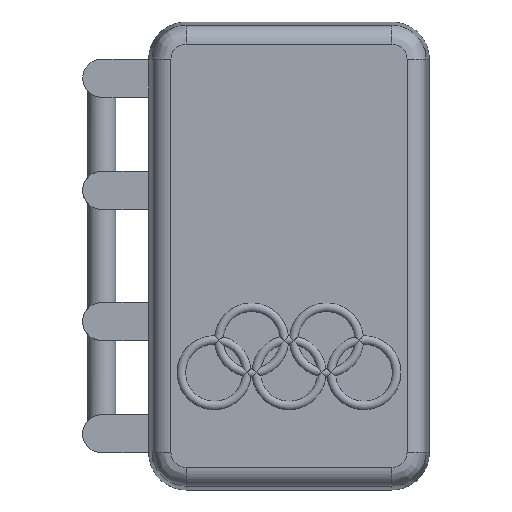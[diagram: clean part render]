
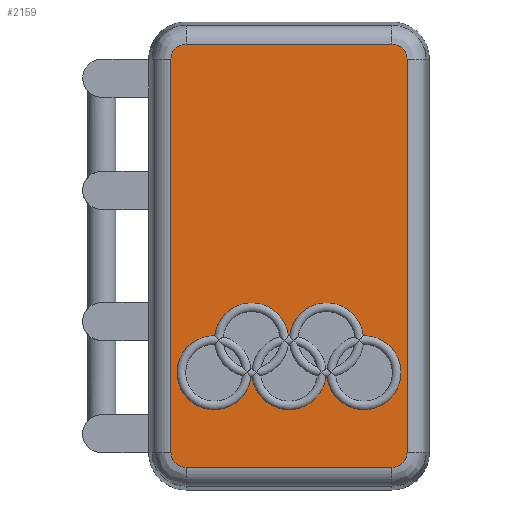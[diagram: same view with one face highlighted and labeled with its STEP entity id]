
A CAD part, top view. The second image highlights one B-rep face of the part: STEP entity #2159.
In plain terms, the highlighted planar face has unit normal (0, 0, 1).
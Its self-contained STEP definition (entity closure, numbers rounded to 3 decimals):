
#141=FACE_BOUND('',#274,.T.);
#143=FACE_OUTER_BOUND('',#273,.T.);
#273=EDGE_LOOP('',(#1339,#1340,#1341,#1342,#1343,#1344,#1345,#1346));
#274=EDGE_LOOP('',(#1347,#1348,#1349,#1350,#1351,#1352,#1353,#1354));
#405=CIRCLE('',#2310,1.615);
#406=CIRCLE('',#2311,1.615);
#407=CIRCLE('',#2312,1.615);
#408=CIRCLE('',#2313,1.615);
#409=CIRCLE('',#2314,3.958);
#410=CIRCLE('',#2315,3.958);
#411=CIRCLE('',#2316,3.958);
#412=CIRCLE('',#2317,3.958);
#413=CIRCLE('',#2318,3.958);
#414=CIRCLE('',#2319,3.958);
#415=CIRCLE('',#2320,3.958);
#416=CIRCLE('',#2321,3.958);
#513=LINE('',#3212,#666);
#514=LINE('',#3216,#667);
#515=LINE('',#3220,#668);
#516=LINE('',#3224,#669);
#666=VECTOR('',#2561,1.);
#667=VECTOR('',#2564,1.);
#668=VECTOR('',#2567,1.);
#669=VECTOR('',#2570,1.);
#819=VERTEX_POINT('',#3210);
#820=VERTEX_POINT('',#3211);
#821=VERTEX_POINT('',#3213);
#822=VERTEX_POINT('',#3215);
#823=VERTEX_POINT('',#3217);
#824=VERTEX_POINT('',#3219);
#825=VERTEX_POINT('',#3221);
#826=VERTEX_POINT('',#3223);
#827=VERTEX_POINT('',#3226);
#828=VERTEX_POINT('',#3227);
#829=VERTEX_POINT('',#3229);
#830=VERTEX_POINT('',#3231);
#831=VERTEX_POINT('',#3233);
#832=VERTEX_POINT('',#3235);
#833=VERTEX_POINT('',#3237);
#834=VERTEX_POINT('',#3239);
#1016=EDGE_CURVE('',#819,#820,#513,.T.);
#1017=EDGE_CURVE('',#820,#821,#405,.T.);
#1018=EDGE_CURVE('',#821,#822,#514,.T.);
#1019=EDGE_CURVE('',#822,#823,#406,.T.);
#1020=EDGE_CURVE('',#823,#824,#515,.T.);
#1021=EDGE_CURVE('',#824,#825,#407,.T.);
#1022=EDGE_CURVE('',#825,#826,#516,.T.);
#1023=EDGE_CURVE('',#826,#819,#408,.T.);
#1024=EDGE_CURVE('',#827,#828,#409,.T.);
#1025=EDGE_CURVE('',#828,#829,#410,.T.);
#1026=EDGE_CURVE('',#829,#830,#411,.T.);
#1027=EDGE_CURVE('',#830,#831,#412,.T.);
#1028=EDGE_CURVE('',#831,#832,#413,.T.);
#1029=EDGE_CURVE('',#832,#833,#414,.T.);
#1030=EDGE_CURVE('',#833,#834,#415,.T.);
#1031=EDGE_CURVE('',#834,#827,#416,.T.);
#1339=ORIENTED_EDGE('',*,*,#1016,.T.);
#1340=ORIENTED_EDGE('',*,*,#1017,.T.);
#1341=ORIENTED_EDGE('',*,*,#1018,.T.);
#1342=ORIENTED_EDGE('',*,*,#1019,.T.);
#1343=ORIENTED_EDGE('',*,*,#1020,.T.);
#1344=ORIENTED_EDGE('',*,*,#1021,.T.);
#1345=ORIENTED_EDGE('',*,*,#1022,.T.);
#1346=ORIENTED_EDGE('',*,*,#1023,.T.);
#1347=ORIENTED_EDGE('',*,*,#1024,.T.);
#1348=ORIENTED_EDGE('',*,*,#1025,.T.);
#1349=ORIENTED_EDGE('',*,*,#1026,.T.);
#1350=ORIENTED_EDGE('',*,*,#1027,.T.);
#1351=ORIENTED_EDGE('',*,*,#1028,.T.);
#1352=ORIENTED_EDGE('',*,*,#1029,.T.);
#1353=ORIENTED_EDGE('',*,*,#1030,.T.);
#1354=ORIENTED_EDGE('',*,*,#1031,.T.);
#1985=PLANE('',#2309);
#2159=ADVANCED_FACE('',(#143,#141),#1985,.T.);
#2309=AXIS2_PLACEMENT_3D('',#3209,#2559,#2560);
#2310=AXIS2_PLACEMENT_3D('',#3214,#2562,#2563);
#2311=AXIS2_PLACEMENT_3D('',#3218,#2565,#2566);
#2312=AXIS2_PLACEMENT_3D('',#3222,#2568,#2569);
#2313=AXIS2_PLACEMENT_3D('',#3225,#2571,#2572);
#2314=AXIS2_PLACEMENT_3D('',#3228,#2573,#2574);
#2315=AXIS2_PLACEMENT_3D('',#3230,#2575,#2576);
#2316=AXIS2_PLACEMENT_3D('',#3232,#2577,#2578);
#2317=AXIS2_PLACEMENT_3D('',#3234,#2579,#2580);
#2318=AXIS2_PLACEMENT_3D('',#3236,#2581,#2582);
#2319=AXIS2_PLACEMENT_3D('',#3238,#2583,#2584);
#2320=AXIS2_PLACEMENT_3D('',#3240,#2585,#2586);
#2321=AXIS2_PLACEMENT_3D('',#3241,#2587,#2588);
#2559=DIRECTION('center_axis',(0.,0.,1.));
#2560=DIRECTION('ref_axis',(1.,0.,0.));
#2561=DIRECTION('',(0.,-1.,0.));
#2562=DIRECTION('center_axis',(0.,0.,1.));
#2563=DIRECTION('ref_axis',(1.,0.,0.));
#2564=DIRECTION('',(1.,0.,0.));
#2565=DIRECTION('center_axis',(0.,0.,1.));
#2566=DIRECTION('ref_axis',(1.,0.,0.));
#2567=DIRECTION('',(0.,1.,0.));
#2568=DIRECTION('center_axis',(0.,0.,1.));
#2569=DIRECTION('ref_axis',(1.,0.,0.));
#2570=DIRECTION('',(-1.,0.,0.));
#2571=DIRECTION('center_axis',(0.,0.,1.));
#2572=DIRECTION('ref_axis',(1.,0.,0.));
#2573=DIRECTION('center_axis',(0.,0.,-1.));
#2574=DIRECTION('ref_axis',(1.,0.,0.));
#2575=DIRECTION('center_axis',(0.,0.,-1.));
#2576=DIRECTION('ref_axis',(1.,0.,0.));
#2577=DIRECTION('center_axis',(0.,0.,-1.));
#2578=DIRECTION('ref_axis',(1.,0.,0.));
#2579=DIRECTION('center_axis',(0.,0.,-1.));
#2580=DIRECTION('ref_axis',(1.,0.,0.));
#2581=DIRECTION('center_axis',(0.,0.,-1.));
#2582=DIRECTION('ref_axis',(1.,0.,0.));
#2583=DIRECTION('center_axis',(0.,0.,-1.));
#2584=DIRECTION('ref_axis',(1.,0.,0.));
#2585=DIRECTION('center_axis',(0.,0.,-1.));
#2586=DIRECTION('ref_axis',(1.,0.,0.));
#2587=DIRECTION('center_axis',(0.,0.,-1.));
#2588=DIRECTION('ref_axis',(1.,0.,0.));
#3209=CARTESIAN_POINT('Origin',(-86.497,-83.997,15.));
#3210=CARTESIAN_POINT('',(-12.615,33.5,15.));
#3211=CARTESIAN_POINT('',(-12.615,-8.5,15.));
#3212=CARTESIAN_POINT('',(-12.615,12.5,15.));
#3213=CARTESIAN_POINT('',(-11.,-10.115,15.));
#3214=CARTESIAN_POINT('Origin',(-11.,-8.5,15.));
#3215=CARTESIAN_POINT('',(11.,-10.115,15.));
#3216=CARTESIAN_POINT('',(0.,-10.115,15.));
#3217=CARTESIAN_POINT('',(12.615,-8.5,15.));
#3218=CARTESIAN_POINT('Origin',(11.,-8.5,15.));
#3219=CARTESIAN_POINT('',(12.615,33.5,15.));
#3220=CARTESIAN_POINT('',(12.615,12.5,15.));
#3221=CARTESIAN_POINT('',(11.,35.115,15.));
#3222=CARTESIAN_POINT('Origin',(11.,33.5,15.));
#3223=CARTESIAN_POINT('',(-11.,35.115,15.));
#3224=CARTESIAN_POINT('',(0.,35.115,15.));
#3225=CARTESIAN_POINT('Origin',(-11.,33.5,15.));
#3226=CARTESIAN_POINT('',(-3.932,-0.458,15.));
#3227=CARTESIAN_POINT('',(-4.068,-0.458,15.));
#3228=CARTESIAN_POINT('Origin',(-4.,3.5,15.));
#3229=CARTESIAN_POINT('',(-7.932,3.958,15.));
#3230=CARTESIAN_POINT('Origin',(-8.,0.,15.));
#3231=CARTESIAN_POINT('',(-0.068,3.958,15.));
#3232=CARTESIAN_POINT('Origin',(-4.,3.5,15.));
#3233=CARTESIAN_POINT('',(0.068,3.958,15.));
#3234=CARTESIAN_POINT('Origin',(0.,0.,
15.));
#3235=CARTESIAN_POINT('',(7.932,3.958,15.));
#3236=CARTESIAN_POINT('Origin',(4.,3.5,15.));
#3237=CARTESIAN_POINT('',(4.068,-0.458,15.));
#3238=CARTESIAN_POINT('Origin',(8.,0.,15.));
#3239=CARTESIAN_POINT('',(3.932,-0.458,15.));
#3240=CARTESIAN_POINT('Origin',(4.,3.5,15.));
#3241=CARTESIAN_POINT('Origin',(0.,0.,
15.));
